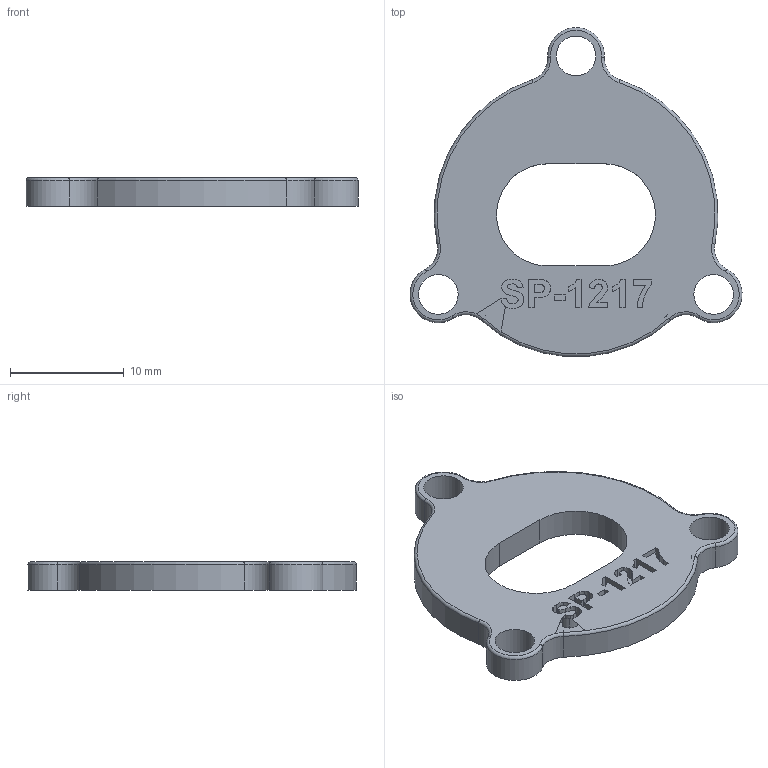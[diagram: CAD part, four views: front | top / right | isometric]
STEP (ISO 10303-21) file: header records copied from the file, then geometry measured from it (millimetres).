
FILE_DESCRIPTION(/* description */ (''),/* implementation_level */ '2;1');
FILE_NAME(/* name */ 'C:/Users/bodhe/OneDrive - Obvious Innovations LLC/Documents/Soberton Parts/Enclosure files/ec-003i.step',/* time_stamp */ '2021-04-26T18:06:52-05:00',/* author */ (''),/* organization */ (''),/* preprocessor_version */ 'ST-DEVELOPER v18.1',/* originating_system */ 'Autodesk Translation Framework v10.6.0.1341',/* authorisation */ '');
FILE_SCHEMA (('AUTOMOTIVE_DESIGN { 1 0 10303 214 3 1 1 }'));
Length unit declared in the file: millimetre
Products named in the file (1): ec-003i
Bounding box: 29.24 x 28.95 x 2.5 mm (x, y, z)
Volume: 1008.7 mm3; surface area: 1285.2 mm2
Topology: 1 solids, 1 shells, 150 faces, 402 edges, 264 vertices
Faces by surface type: bspline 72, plane 47, cylinder 19, torus 12
Full cylindrical faces by diameter (mm): 3.5 x3
Entity records: 5386 total; most frequent: CARTESIAN_POINT 2032, ORIENTED_EDGE 804, DIRECTION 475, EDGE_CURVE 402, VERTEX_POINT 264, LINE 193, VECTOR 193, EDGE_LOOP 168
